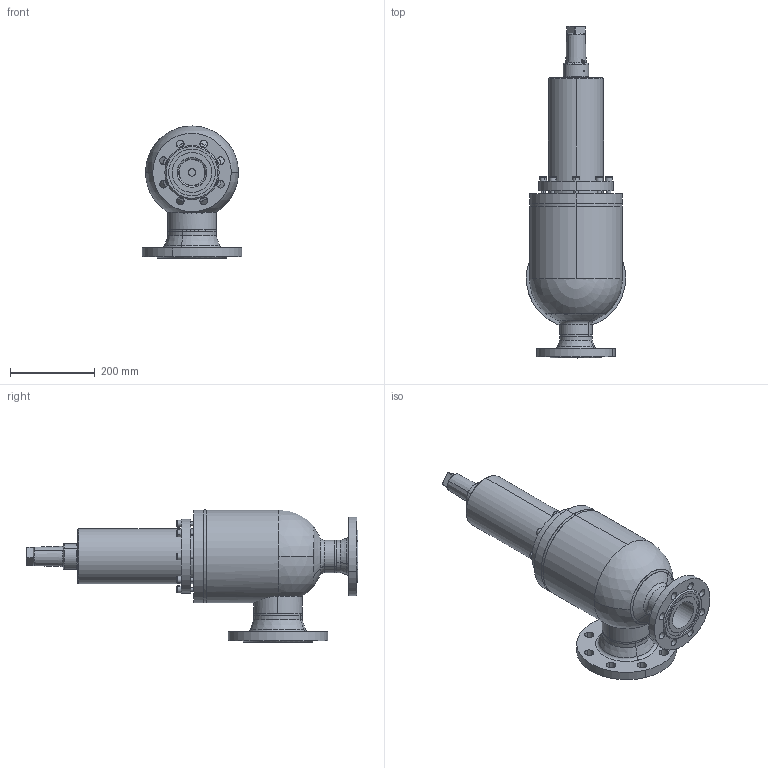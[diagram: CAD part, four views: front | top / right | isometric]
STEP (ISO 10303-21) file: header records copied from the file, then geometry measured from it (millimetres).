
FILE_DESCRIPTION (( 'STEP AP214' ), '1' );
FILE_NAME ('SVUB44200C17-DN65-(100)_DIN-FL.STEP', '2010-09-10T06:23:23', ( 'Eckhard Grams' ), ( 'AWP Kälte Klima Armaturen GmbH' ), 'SwSTEP 2.0', 'SolidWorks 2002296', '' );
FILE_SCHEMA (( 'AUTOMOTIVE_DESIGN' ));
Length unit declared in the file: millimetre
Products named in the file (19): SVUB44200C17-DN65-(100)_DIN-FL; Haube44331-17-DN65_kpl-lt-ZG_Standard; Flach-Dichtring44331-20-65_DN 65; Geh,kpl 44331-17-DN65-(100)_DIN-FL-N_Standard; Flansch-DIN2635-Nut_PS40_DIN-Flansch-DN065_PS40-Nut; Geh,kpl 44331-17-DN65-(100)_R1_PS25_Standard; Kopfstück44331-17-DN65_Standard; Geh44331-17-DN65_R1_DN65-100; Rohrstutzen-A44331-17-DN65-(100)_R1_SVU; Sitzstutzen44331-17-DN65_kpl-im-geh_Standard; bead44331-17-Gehkpl1_Standard; bead44331-17-Sitzst-Geh_Standard; Flansch-DIN2635-Nut_PS40_DIN-Flansch-DN100_PS40-Nut; bead44331-17-Flana-E_Standard; bead44331-17-Flana-A_Standard; Loser-FL44200-17-DN65-SVU_PS25_Standard; geteilter Ring4433-17-DN65_PS25_Standard; Kappe 16402-15_DN40-65 (M52x3)_Standard; Zylinderschraube-DIN912_M10x 35
Assembly tree (25 placements, depth 4):
  SVUB44200C17-DN65-(100)_DIN-FL
    Zylinderschraube-DIN912_M10x 35  x8
    Haube44331-17-DN65_kpl-lt-ZG_Standard
    Geh,kpl 44331-17-DN65-(100)_DIN-FL-N_Standard
      Geh,kpl 44331-17-DN65-(100)_R1_PS25_Standard
        bead44331-17-Gehkpl1_Standard
        Geh44331-17-DN65_R1_DN65-100
        bead44331-17-Sitzst-Geh_Standard
        Kopfstück44331-17-DN65_Standard
        Rohrstutzen-A44331-17-DN65-(100)_R1_SVU
        Sitzstutzen44331-17-DN65_kpl-im-geh_Standard
      Flansch-DIN2635-Nut_PS40_DIN-Flansch-DN100_PS40-Nut
      bead44331-17-Flana-E_Standard
      Flansch-DIN2635-Nut_PS40_DIN-Flansch-DN065_PS40-Nut
      bead44331-17-Flana-A_Standard
    Kappe 16402-15_DN40-65 (M52x3)_Standard
    Flach-Dichtring44331-20-65_DN 65
    geteilter Ring4433-17-DN65_PS25_Standard
    Loser-FL44200-17-DN65-SVU_PS25_Standard
Bounding box: 234.78 x 783.5 x 311.76 mm (x, y, z)
Volume: 4751850 mm3; surface area: 1113891 mm2
Topology: 24 solids, 24 shells, 529 faces, 1244 edges, 764 vertices
Faces by surface type: cylinder 216, plane 146, cone 95, torus 41, bspline 26, sphere 5
Entity records: 22647 total; most frequent: CARTESIAN_POINT 12201, DIRECTION 2122, ORIENTED_EDGE 1920, EDGE_CURVE 960, AXIS2_PLACEMENT_3D 901, VERTEX_POINT 596, CIRCLE 494, EDGE_LOOP 488
